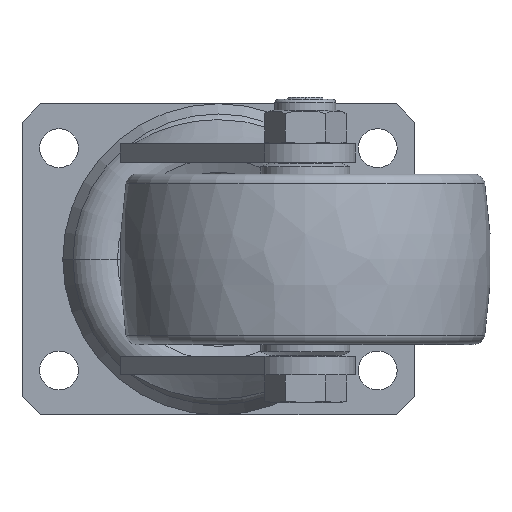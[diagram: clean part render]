
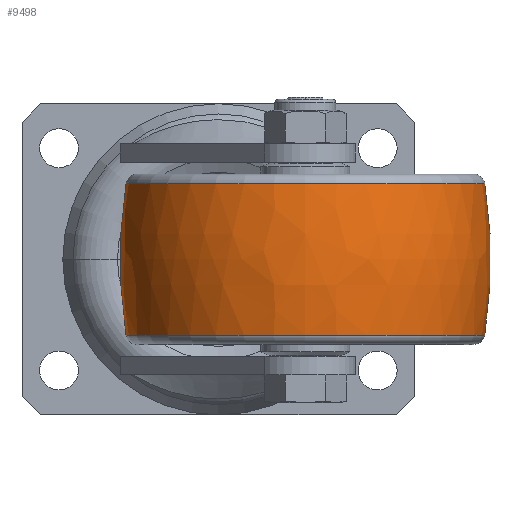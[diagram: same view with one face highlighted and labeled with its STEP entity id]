
A CAD part, front view. The second image highlights one B-rep face of the part: STEP entity #9498.
In plain terms, the highlighted free-form (B-spline) face has degree [3, 3] with [7, 4] control points.
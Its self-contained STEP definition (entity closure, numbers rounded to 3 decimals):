
#7288=CARTESIAN_POINT('',(-20.462,0.,0.));
#7289=DIRECTION('',(1.,0.,0.));
#7290=DIRECTION('',(0.,1.,0.));
#7291=AXIS2_PLACEMENT_3D('',#7288,#7289,#7290);
#7293=CARTESIAN_POINT('',(20.462,0.,0.));
#7294=DIRECTION('',(1.,0.,0.));
#7295=DIRECTION('',(0.,1.,0.));
#7296=AXIS2_PLACEMENT_3D('',#7293,#7294,#7295);
#7298=CARTESIAN_POINT('',(0.,-83.,0.));
#7299=DIRECTION('',(0.,0.,1.));
#7300=DIRECTION('',(0.154,0.988,0.));
#7301=AXIS2_PLACEMENT_3D('',#7298,#7299,#7300);
#7303=CARTESIAN_POINT('',(0.,83.,0.));
#7304=DIRECTION('',(0.,0.,-1.));
#7305=DIRECTION('',(0.154,-0.988,0.));
#7306=AXIS2_PLACEMENT_3D('',#7303,#7304,#7305);
#7522=CARTESIAN_POINT('',(20.462,48.417,0.));
#7524=VERTEX_POINT('',#7522);
#7525=CARTESIAN_POINT('',(-20.462,48.417,0.));
#7526=VERTEX_POINT('',#7525);
#7570=CARTESIAN_POINT('',(20.462,-48.417,
0.));
#7572=VERTEX_POINT('',#7570);
#7573=CARTESIAN_POINT('',(-20.462,-48.417,
0.));
#7574=VERTEX_POINT('',#7573);
#9460=CARTESIAN_POINT('',(-21.273,48.192,
-3.032));
#9461=CARTESIAN_POINT('',(-7.152,50.476,
-3.176));
#9462=CARTESIAN_POINT('',(7.152,50.476,-3.176));
#9463=CARTESIAN_POINT('',(21.273,48.192,-3.032));
#9464=CARTESIAN_POINT('',(-21.273,50.058,26.626));
#9465=CARTESIAN_POINT('',(-7.152,52.43,27.887));
#9466=CARTESIAN_POINT('',(7.152,52.43,27.887));
#9467=CARTESIAN_POINT('',(21.273,50.058,26.626));
#9468=CARTESIAN_POINT('',(-21.273,29.716,48.288));
#9469=CARTESIAN_POINT('',(-7.152,31.124,50.576));
#9470=CARTESIAN_POINT('',(7.152,31.124,50.576));
#9471=CARTESIAN_POINT('',(21.273,29.716,48.288));
#9472=CARTESIAN_POINT('',(-21.273,0.,
48.288));
#9473=CARTESIAN_POINT('',(-7.152,0.,50.576));
#9474=CARTESIAN_POINT('',(7.152,0.,
50.576));
#9475=CARTESIAN_POINT('',(21.273,0.,
48.288));
#9476=CARTESIAN_POINT('',(-21.273,-29.716,
48.288));
#9477=CARTESIAN_POINT('',(-7.152,-31.124,
50.576));
#9478=CARTESIAN_POINT('',(7.152,-31.124,50.576));
#9479=CARTESIAN_POINT('',(21.273,-29.716,48.288));
#9480=CARTESIAN_POINT('',(-21.273,-50.058,
26.626));
#9481=CARTESIAN_POINT('',(-7.152,-52.43,
27.887));
#9482=CARTESIAN_POINT('',(7.152,-52.43,27.887));
#9483=CARTESIAN_POINT('',(21.273,-50.058,26.626));
#9484=CARTESIAN_POINT('',(-21.273,-48.192,
-3.032));
#9485=CARTESIAN_POINT('',(-7.152,-50.476,
-3.176));
#9486=CARTESIAN_POINT('',(7.152,-50.476,
-3.176));
#9487=CARTESIAN_POINT('',(21.273,-48.192,
-3.032));
#9488=(BOUNDED_SURFACE()B_SPLINE_SURFACE(3,3,((#9460,#9461,#9462,#9463),(#9464,
#9465,#9466,#9467),(#9468,#9469,#9470,#9471),(#9472,#9473,#9474,#9475),(#9476,
#9477,#9478,#9479),(#9480,#9481,#9482,#9483),(#9484,#9485,#9486,#9487)),
.UNSPECIFIED.,.F.,.F.,.F.)B_SPLINE_SURFACE_WITH_KNOTS((4,3,4),(4,4),(0.,1.,
2.),(0.,1.),.UNSPECIFIED.)GEOMETRIC_REPRESENTATION_ITEM()RATIONAL_B_SPLINE_SURFACE(((1.195,1.185,1.185,1.195),(
0.944,0.936,0.936,0.944),(
0.944,0.936,0.936,0.944),(
1.195,1.185,1.185,1.195),(
0.944,0.936,0.936,0.944),(
0.944,0.936,0.936,0.944),(
1.195,1.185,1.185,1.195)))REPRESENTATION_ITEM('')SURFACE());
#9490=ORIENTED_EDGE('',*,*,#9489,.F.);
#9492=ORIENTED_EDGE('',*,*,#9491,.T.);
#9494=ORIENTED_EDGE('',*,*,#9493,.T.);
#9495=ORIENTED_EDGE('',*,*,#9453,.F.);
#9496=EDGE_LOOP('',(#9490,#9492,#9494,#9495));
#9497=FACE_OUTER_BOUND('',#9496,.F.);
#7292=CIRCLE('',#7291,48.417);
#7297=CIRCLE('',#7296,48.417);
#7302=CIRCLE('',#7301,133.);
#7307=CIRCLE('',#7306,133.);
#9453=EDGE_CURVE('',#7526,#7574,#7292,.T.);
#9489=EDGE_CURVE('',#7524,#7526,#7302,.T.);
#9491=EDGE_CURVE('',#7524,#7572,#7297,.T.);
#9493=EDGE_CURVE('',#7572,#7574,#7307,.T.);
#9498=ADVANCED_FACE('',(#9497),#9488,.T.);
